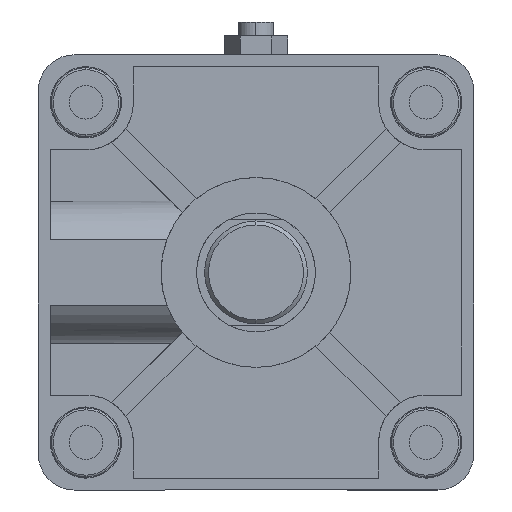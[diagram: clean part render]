
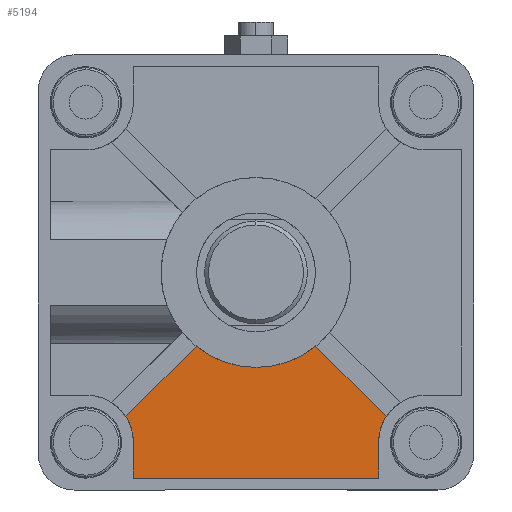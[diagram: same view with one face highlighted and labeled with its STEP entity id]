
A CAD part, left-side view. The second image highlights one B-rep face of the part: STEP entity #5194.
In plain terms, the highlighted planar face has unit normal (-1, 0, 0) as drawn and (1, 0, 0) by its records, which use the part's own axes.
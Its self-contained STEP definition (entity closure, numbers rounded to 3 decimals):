
#302 = DIRECTION ( 'NONE',  ( 0., -0.707, 0.707 ) ) ;
#369 = EDGE_CURVE ( 'NONE', #3979, #5759, #4660, .T. ) ;
#478 = AXIS2_PLACEMENT_3D ( 'NONE', #7977, #2840, #1296 ) ;
#690 = ORIENTED_EDGE ( 'NONE', *, *, #8196, .F. ) ;
#699 = CARTESIAN_POINT ( 'NONE',  ( -3., 0., 0. ) ) ;
#722 = EDGE_CURVE ( 'NONE', #1675, #6238, #4940, .T. ) ;
#869 = DIRECTION ( 'NONE',  ( 0., 0., 1. ) ) ;
#1296 = DIRECTION ( 'NONE',  ( 0., 0., -1. ) ) ;
#1415 = VECTOR ( 'NONE', #2221, 1000. ) ;
#1424 = VERTEX_POINT ( 'NONE', #3283 ) ;
#1675 = VERTEX_POINT ( 'NONE', #4973 ) ;
#1924 = CIRCLE ( 'NONE', #4549, 12. ) ;
#1974 = ORIENTED_EDGE ( 'NONE', *, *, #2163, .F. ) ;
#2079 = CARTESIAN_POINT ( 'NONE',  ( -3., 0., 52. ) ) ;
#2158 = CARTESIAN_POINT ( 'NONE',  ( -3., -31., 0. ) ) ;
#2163 = EDGE_CURVE ( 'NONE', #4926, #6238, #5153, .T. ) ;
#2194 = AXIS2_PLACEMENT_3D ( 'NONE', #6456, #2614, #6742 ) ;
#2221 = DIRECTION ( 'NONE',  ( 0., -1., 0. ) ) ;
#2293 = CARTESIAN_POINT ( 'NONE',  ( -3., 0., 0. ) ) ;
#2340 = EDGE_CURVE ( 'NONE', #4915, #8118, #6944, .T. ) ;
#2380 = CARTESIAN_POINT ( 'NONE',  ( -3., -31., 52. ) ) ;
#2392 = ORIENTED_EDGE ( 'NONE', *, *, #2340, .T. ) ;
#2452 = EDGE_CURVE ( 'NONE', #8118, #1675, #7598, .T. ) ;
#2614 = DIRECTION ( 'NONE',  ( -1., 0., 0. ) ) ;
#2682 = ORIENTED_EDGE ( 'NONE', *, *, #722, .T. ) ;
#2804 = VECTOR ( 'NONE', #869, 1000. ) ;
#2840 = DIRECTION ( 'NONE',  ( -1., 0., 0. ) ) ;
#3051 = AXIS2_PLACEMENT_3D ( 'NONE', #2293, #3557, #5027 ) ;
#3226 = CARTESIAN_POINT ( 'NONE',  ( -3., -43., 43. ) ) ;
#3283 = CARTESIAN_POINT ( 'NONE',  ( -3., 15.11, 18.646 ) ) ;
#3377 = ORIENTED_EDGE ( 'NONE', *, *, #5749, .F. ) ;
#3535 = VECTOR ( 'NONE', #3740, 1000. ) ;
#3557 = DIRECTION ( 'NONE',  ( -1., 0., 0. ) ) ;
#3652 = CARTESIAN_POINT ( 'NONE',  ( -3., 1.768, 1.768 ) ) ;
#3654 = CARTESIAN_POINT ( 'NONE',  ( -3., -31., 43. ) ) ;
#3740 = DIRECTION ( 'NONE',  ( 0., 0., 1. ) ) ;
#3798 = DIRECTION ( 'NONE',  ( 0., -0.707, -0.707 ) ) ;
#3894 = CIRCLE ( 'NONE', #478, 24. ) ;
#3979 = VERTEX_POINT ( 'NONE', #5097 ) ;
#4238 = CARTESIAN_POINT ( 'NONE',  ( -3., 31., 43. ) ) ;
#4549 = AXIS2_PLACEMENT_3D ( 'NONE', #3226, #4822, #7369 ) ;
#4660 = CIRCLE ( 'NONE', #3051, 24. ) ;
#4687 = CARTESIAN_POINT ( 'NONE',  ( -3., 0., 24. ) ) ;
#4822 = DIRECTION ( 'NONE',  ( 1., 0., 0. ) ) ;
#4826 = CARTESIAN_POINT ( 'NONE',  ( -3., 32.933, 36.469 ) ) ;
#4832 = FACE_OUTER_BOUND ( 'NONE', #7334, .T. ) ;
#4915 = VERTEX_POINT ( 'NONE', #4826 ) ;
#4926 = VERTEX_POINT ( 'NONE', #3654 ) ;
#4940 = LINE ( 'NONE', #2079, #1415 ) ;
#4973 = CARTESIAN_POINT ( 'NONE',  ( -3., 31., 52. ) ) ;
#5027 = DIRECTION ( 'NONE',  ( 0., 0., -1. ) ) ;
#5097 = CARTESIAN_POINT ( 'NONE',  ( -3., -15.11, 18.646 ) ) ;
#5153 = LINE ( 'NONE', #2158, #2804 ) ;
#5194 = ADVANCED_FACE ( 'NONE', ( #4832 ), #8370, .T. ) ;
#5255 = DIRECTION ( 'NONE',  ( 0., 0., -1. ) ) ;
#5267 = EDGE_CURVE ( 'NONE', #5759, #1424, #3894, .T. ) ;
#5290 = CARTESIAN_POINT ( 'NONE',  ( -3., -32.933, 36.469 ) ) ;
#5460 = VECTOR ( 'NONE', #302, 1000. ) ;
#5671 = ORIENTED_EDGE ( 'NONE', *, *, #369, .T. ) ;
#5680 = DIRECTION ( 'NONE',  ( 1., 0., 0. ) ) ;
#5749 = EDGE_CURVE ( 'NONE', #7346, #4926, #1924, .T. ) ;
#5759 = VERTEX_POINT ( 'NONE', #4687 ) ;
#5772 = AXIS2_PLACEMENT_3D ( 'NONE', #699, #5680, #5255 ) ;
#6114 = LINE ( 'NONE', #3652, #5460 ) ;
#6177 = CARTESIAN_POINT ( 'NONE',  ( -3., 31., 0. ) ) ;
#6238 = VERTEX_POINT ( 'NONE', #2380 ) ;
#6456 = CARTESIAN_POINT ( 'NONE',  ( -3., 43., 43. ) ) ;
#6634 = EDGE_CURVE ( 'NONE', #3979, #7346, #6114, .T. ) ;
#6742 = DIRECTION ( 'NONE',  ( 0., 0., -1. ) ) ;
#6897 = ORIENTED_EDGE ( 'NONE', *, *, #6634, .F. ) ;
#6944 = CIRCLE ( 'NONE', #2194, 12. ) ;
#7334 = EDGE_LOOP ( 'NONE', ( #6897, #5671, #7379, #690, #2392, #8762, #2682, #1974, #3377 ) ) ;
#7346 = VERTEX_POINT ( 'NONE', #5290 ) ;
#7369 = DIRECTION ( 'NONE',  ( 0., 0., -1. ) ) ;
#7379 = ORIENTED_EDGE ( 'NONE', *, *, #5267, .T. ) ;
#7598 = LINE ( 'NONE', #6177, #3535 ) ;
#7640 = VECTOR ( 'NONE', #3798, 1000. ) ;
#7664 = CARTESIAN_POINT ( 'NONE',  ( -3., -1.768, 1.768 ) ) ;
#7977 = CARTESIAN_POINT ( 'NONE',  ( -3., 0., 0. ) ) ;
#8118 = VERTEX_POINT ( 'NONE', #4238 ) ;
#8196 = EDGE_CURVE ( 'NONE', #4915, #1424, #8495, .T. ) ;
#8370 = PLANE ( 'NONE',  #5772 ) ;
#8495 = LINE ( 'NONE', #7664, #7640 ) ;
#8762 = ORIENTED_EDGE ( 'NONE', *, *, #2452, .T. ) ;
